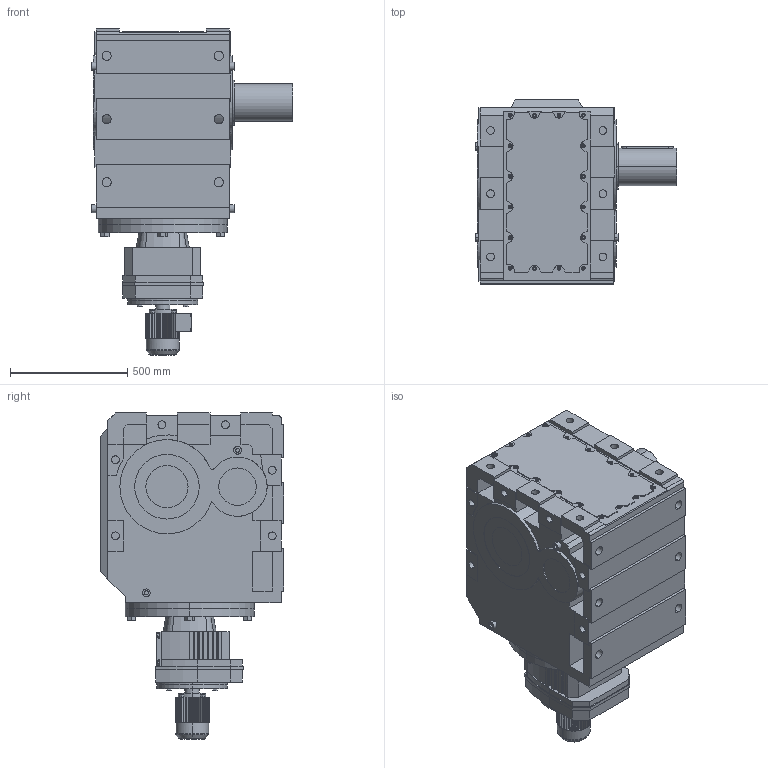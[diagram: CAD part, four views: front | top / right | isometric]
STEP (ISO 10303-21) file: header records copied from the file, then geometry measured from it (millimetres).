
FILE_DESCRIPTION(('Open CASCADE Model'),'2;1');
FILE_NAME('Open CASCADE Shape Model','2021-07-24T16:20:54',('Author'),( 'Open CASCADE'),'Open CASCADE STEP processor 6.3','Open CASCADE 6.3' ,'Unknown');
FILE_SCHEMA(('AUTOMOTIVE_DESIGN_CC2 { 1 2 10303 214 -1 1 5 4 }'));
Length unit declared in the file: millimetre
Products named in the file (5): 1_K167R97DT80-A; K167‵187_167.step; 萇儂_300-DT80-231-295-145-122.step; R_167_97.step; す瑩妗陑粣K_167.step
Assembly tree (4 placements, depth 2):
  1_K167R97DT80-A
    K167‵187_167.step
    萇儂_300-DT80-231-295-145-122.step
    R_167_97.step
    す瑩妗陑粣K_167.step
Bounding box: 860 x 786 x 1393 mm (x, y, z)
Volume: 384362492.4 mm3; surface area: 6105197.3 mm2
Topology: 4 solids, 4 shells, 1161 faces, 3038 edges, 1986 vertices
Faces by surface type: plane 805, cylinder 336, cone 16, torus 4
Entity records: 76278 total; most frequent: CARTESIAN_POINT 17782, DIRECTION 10259, ORIENTED_EDGE 6072, PCURVE 6072, DEFINITIONAL_REPRESENTATION 6072, LINE 5765, VECTOR 5765, EDGE_CURVE 3036
